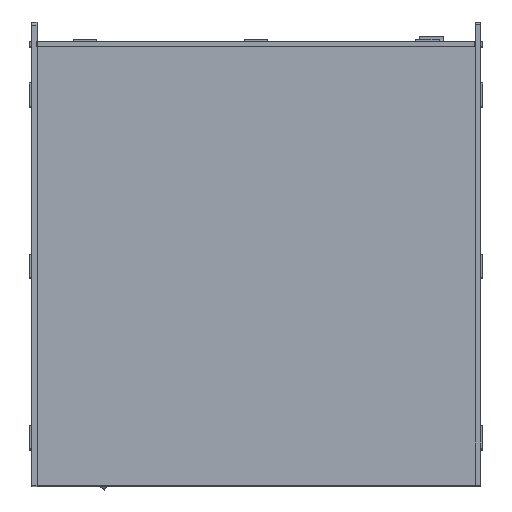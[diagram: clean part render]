
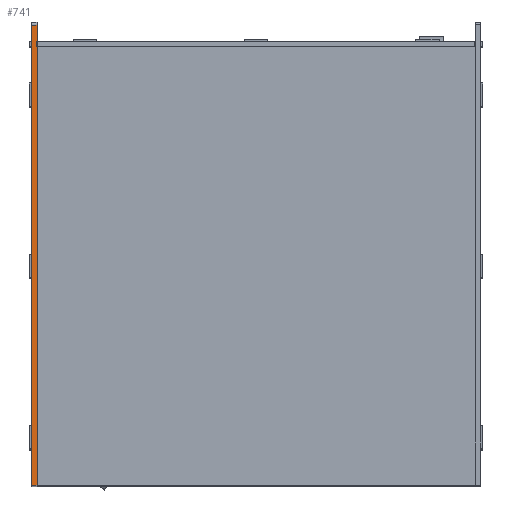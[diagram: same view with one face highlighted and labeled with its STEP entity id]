
A CAD part, top view. The second image highlights one B-rep face of the part: STEP entity #741.
In plain terms, the highlighted planar face has unit normal (0, 0, 1).
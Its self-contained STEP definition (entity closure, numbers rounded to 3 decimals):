
#741=ADVANCED_FACE('',(#1295),#9698,.T.);
#1295=FACE_OUTER_BOUND('',#1895,.T.);
#1895=EDGE_LOOP('',(#4077,#4078,#4079,#4080));
#4077=ORIENTED_EDGE('',*,*,#6045,.F.);
#4078=ORIENTED_EDGE('',*,*,#6049,.T.);
#4079=ORIENTED_EDGE('',*,*,#6223,.F.);
#4080=ORIENTED_EDGE('',*,*,#6224,.T.);
#6045=EDGE_CURVE('',#9035,#9032,#7313,.T.);
#6049=EDGE_CURVE('',#9035,#9038,#7317,.T.);
#6223=EDGE_CURVE('',#9153,#9038,#7491,.T.);
#6224=EDGE_CURVE('',#9153,#9032,#7492,.T.);
#7313=B_SPLINE_CURVE_WITH_KNOTS('',1,(#16568,#16569),.UNSPECIFIED.,.F.,
 .F.,(2,2),(0.,4.),.UNSPECIFIED.);
#7317=B_SPLINE_CURVE_WITH_KNOTS('',1,(#16576,#16577),.UNSPECIFIED.,.F.,
 .F.,(2,2),(-336.,0.),.UNSPECIFIED.);
#7491=B_SPLINE_CURVE_WITH_KNOTS('',1,(#16924,#16925),.UNSPECIFIED.,.F.,
 .F.,(2,2),(0.,4.),.UNSPECIFIED.);
#7492=B_SPLINE_CURVE_WITH_KNOTS('',1,(#16926,#16927),.UNSPECIFIED.,.F.,
 .F.,(2,2),(0.,336.),.UNSPECIFIED.);
#9032=VERTEX_POINT('',#16438);
#9035=VERTEX_POINT('',#16441);
#9038=VERTEX_POINT('',#16444);
#9153=VERTEX_POINT('',#16559);
#9698=PLANE('',#10403);
#10403=AXIS2_PLACEMENT_3D('',#16436,#10913,$);
#10913=DIRECTION('',(0.,0.,1.));
#16436=CARTESIAN_POINT('',(-164.52,205.62,645.1));
#16438=CARTESIAN_POINT('',(-160.,171.9,645.1));
#16441=CARTESIAN_POINT('',(-164.,171.9,645.1));
#16444=CARTESIAN_POINT('',(-164.,-164.1,645.1));
#16559=CARTESIAN_POINT('',(-160.,-164.1,645.1));
#16568=CARTESIAN_POINT('',(-164.,171.9,645.1));
#16569=CARTESIAN_POINT('',(-160.,171.9,645.1));
#16576=CARTESIAN_POINT('',(-164.,171.9,645.1));
#16577=CARTESIAN_POINT('',(-164.,-164.1,645.1));
#16924=CARTESIAN_POINT('',(-160.,-164.1,645.1));
#16925=CARTESIAN_POINT('',(-164.,-164.1,645.1));
#16926=CARTESIAN_POINT('',(-160.,-164.1,645.1));
#16927=CARTESIAN_POINT('',(-160.,171.9,645.1));
